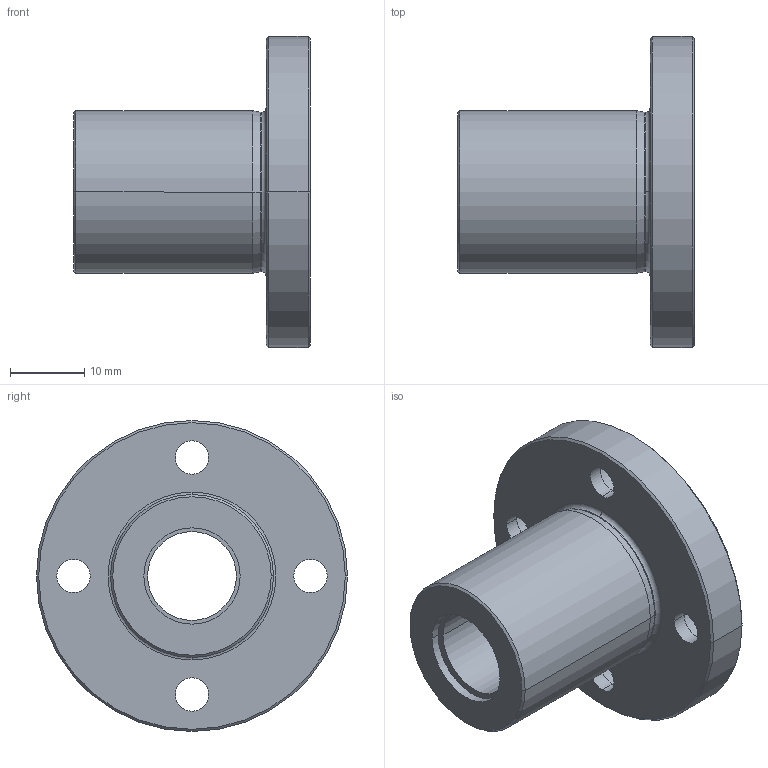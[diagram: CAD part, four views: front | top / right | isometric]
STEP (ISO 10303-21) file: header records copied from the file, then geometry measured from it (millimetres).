
FILE_DESCRIPTION (( 'STEP AP214' ), '1' );
FILE_NAME ('2.7059 Lineaarilaakeri LMEF12UU.STEP', '2024-06-17T11:02:25', ( '' ), ( '' ), 'SwSTEP 2.0', 'SolidWorks 2024', '' );
FILE_SCHEMA (( 'AUTOMOTIVE_DESIGN' ));
Length unit declared in the file: millimetre
Products named in the file (1): 2.7059 Lineaarilaakeri LMEF12UU
Bounding box: 32 x 42 x 42 mm (x, y, z)
Volume: 13636 mm3; surface area: 6799.9 mm2
Topology: 1 solids, 1 shells, 53 faces, 116 edges, 74 vertices
Faces by surface type: cylinder 30, plane 11, cone 8, torus 4
Entity records: 1531 total; most frequent: DIRECTION 302, CARTESIAN_POINT 244, ORIENTED_EDGE 232, AXIS2_PLACEMENT_3D 132, EDGE_CURVE 116, CIRCLE 78, VERTEX_POINT 74, EDGE_LOOP 72
